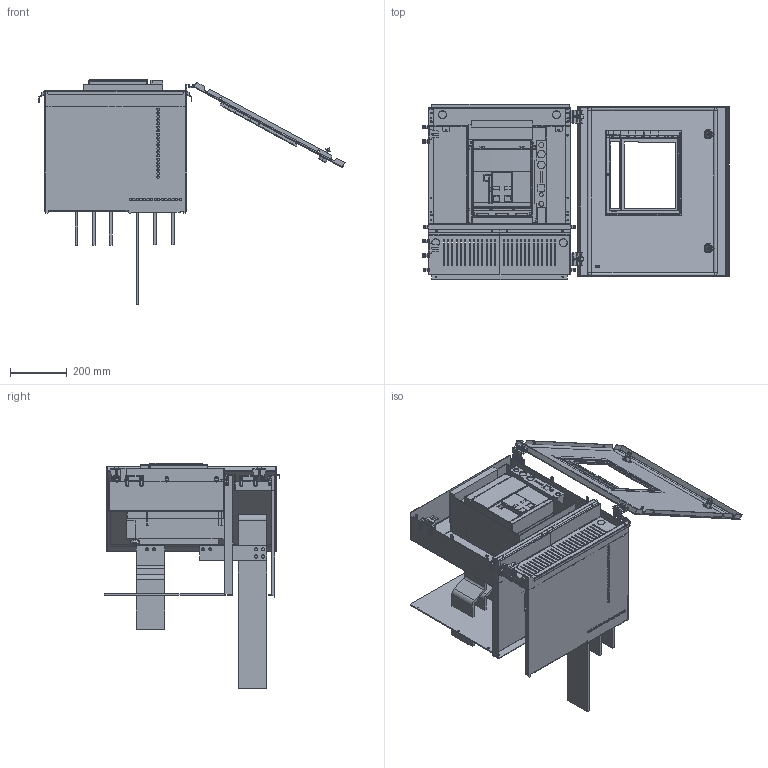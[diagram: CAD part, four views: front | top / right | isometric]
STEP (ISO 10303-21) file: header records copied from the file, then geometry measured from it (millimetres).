
FILE_DESCRIPTION(('CAx-IF Rec.Pracs.---Model Styling and Organization---1.2---2011-12-15','CAx-IF Rec.Pracs.---Geometric and Assembly Validation Properties---4.1---2014-06-16','CAx-IF Rec.Pracs.---PMI Polyline Presentation---2.0---2013-05-24'),'2;1');
FILE_NAME('R5M212IB2H61519R.stp','2021-05-05T12:45:41+03:00',(''),(''),'STEP Interface 4.4 by CT CoreTechnologie','3D_Evolution4.4 by CT CoreTechnologie','');
FILE_SCHEMA(('AUTOMOTIVE_DESIGN { 1 0 10303 214 1 1 1 1 }'));
Length unit declared in the file: millimetre
Products named in the file (54): R5M212IB2H61519R(äâóñòîðîííèé); ABBO2_-00; RB.0687.00.00.1_-00; ABBT2W_-00; RB.0116.00.00.1_-00; ABBT1W_-00; MS737-1-1(1); MS737-1-1 Z_ ªàëâ; MS737-1-1 stop_fixed; AC00C485; E1.2 III W; 1SDH001252R0024_1PA_001_00_E1.2_III_W_11; 1SDH001252R0024_1PA_001_00_E1.2_III_W; 1SDH001252R0024_1PA_001_00_E1.2_III_W_3; 1SDH001252R0024_1PA_001_00_E1.2_III_W_7; 1SDH001252R0024_1PA_001_00_E1.2_III_W_13; E1.2 III W TERMINALS VR(1); 1SDH001252R0041_1PA_001_00_E1.2_III_W_TERMINALS_VR_UPPER_5; E1.2 III W TERMINALS VR(2); 1SDH001252R0024_1PA_001_00_E1.2_III_W_6; 1SDH001252R0024_1PA_001_00_E1.2_III_W_9; 1SDH001252R0024_1PA_001_00_E1.2_III_W_12; 1SDH001252R0024_1PA_001_00_E1.2_III_W_16; 1SDH001252R0024_1PA_001_00_E1.2_III_W_1; 1SDH001252R0024_1PA_001_00_E1.2_III_W_8; 1SDH001252R0024_1PA_001_00_E1.2_III_W_10; 1SDH001252R0024_1PA_001_00_E1.2_III_W_14; 1SDH001252R0024_1PA_001_00_E1.2_III_W_2; 1SDH001252R0024_1PA_001_00_E1.2_III_W_5; MS737-1-1(2); M6 x 16-DIN 7991 ISR_thread; RB.1431.00.00.0_-00; RB.1227.00.00.0_-01; RB.1432.00.00.0_-00; ABBT3W_-00; RB.1433.00.00.0_-00; ABBO1_-00; RB.1433.00.00.0_-01; RB.1434.00.00.0 ÑÁ_-00 (Emax E1.2 F); RB.1434.00.01.0_-00 (SACE Emax E1.2 W)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
Assembly tree (90 placements, depth 4):
  R5M212IB2H61519R(äâóñòîðîííèé)
    ABBO2_-00  x3
    RB.0687.00.00.1_-00  x2
    ABBT2W_-00
    RB.0116.00.00.1_-00  x2
    ABBT1W_-00
    MS737-1-1(1)
      MS737-1-1 Z_ ªàëâ
      MS737-1-1 stop_fixed
    AC00C485  x12
    E1.2 III W
      1SDH001252R0024_1PA_001_00_E1.2_III_W_11
      1SDH001252R0024_1PA_001_00_E1.2_III_W
      1SDH001252R0024_1PA_001_00_E1.2_III_W_3
      1SDH001252R0024_1PA_001_00_E1.2_III_W_7
      1SDH001252R0024_1PA_001_00_E1.2_III_W_13
      E1.2 III W TERMINALS VR(1)
        1SDH001252R0041_1PA_001_00_E1.2_III_W_TERMINALS_VR_UPPER_5  x3
      E1.2 III W TERMINALS VR(2)
        1SDH001252R0041_1PA_001_00_E1.2_III_W_TERMINALS_VR_UPPER_5  x3
      1SDH001252R0024_1PA_001_00_E1.2_III_W_6
      1SDH001252R0024_1PA_001_00_E1.2_III_W_9
      1SDH001252R0024_1PA_001_00_E1.2_III_W_12
      1SDH001252R0024_1PA_001_00_E1.2_III_W_16
      1SDH001252R0024_1PA_001_00_E1.2_III_W_1
      1SDH001252R0024_1PA_001_00_E1.2_III_W_8
      1SDH001252R0024_1PA_001_00_E1.2_III_W_10
      1SDH001252R0024_1PA_001_00_E1.2_III_W_14
      1SDH001252R0024_1PA_001_00_E1.2_III_W_2
      1SDH001252R0024_1PA_001_00_E1.2_III_W_5
    MS737-1-1(2)
      MS737-1-1 Z_ ªàëâ
      MS737-1-1 stop_fixed
    M6 x 16-DIN 7991 ISR_thread  x12
    RB.1431.00.00.0_-00  x2
    RB.1227.00.00.0_-01
    RB.1432.00.00.0_-00
    ABBT3W_-00
    RB.1433.00.00.0_-00
    ABBO1_-00  x3
    RB.1433.00.00.0_-01
    RB.1434.00.00.0 ÑÁ_-00 (Emax E1.2 F)
      RB.1434.00.01.0_-00 (SACE Emax E1.2 W)
      PF 7x14 MCC2.0_0600x0600
      AC00C266  x2
      AC00C061_AC00C061
      Ì6õ12-A5100231_straight
    E1.2 III W Frame
      RB3563001_1PA_001_06_MOSTRINA_W_E1_2
      RB3563001_1PA_001_06_MOSTRINA_W_E1_2_1
    ABBDR3W_-00
    ABBDR2W_-00
    ABBDR1W_-00
    RB.1233.00.00.0_-00
    RB.1590.00.00.0_-00
    RB.1226.00.00.0_-00
    RB.1227.00.00.0_-00
Bounding box: 1074.99 x 617 x 791.27 mm (x, y, z)
Surface area: 5547236.1 mm2 (no closed solid volume)
Topology: 0 solids, 109 shells, 4726 faces, 12619 edges, 8062 vertices
Faces by surface type: plane 2817, cylinder 1502, bspline 407
Entity records: 104891 total; most frequent: CARTESIAN_POINT 22267, ORIENTED_EDGE 16800, DIRECTION 16006, EDGE_CURVE 8453, VECTOR 6658, LINE 6658, VERTEX_POINT 5511, AXIS2_PLACEMENT_3D 4674
